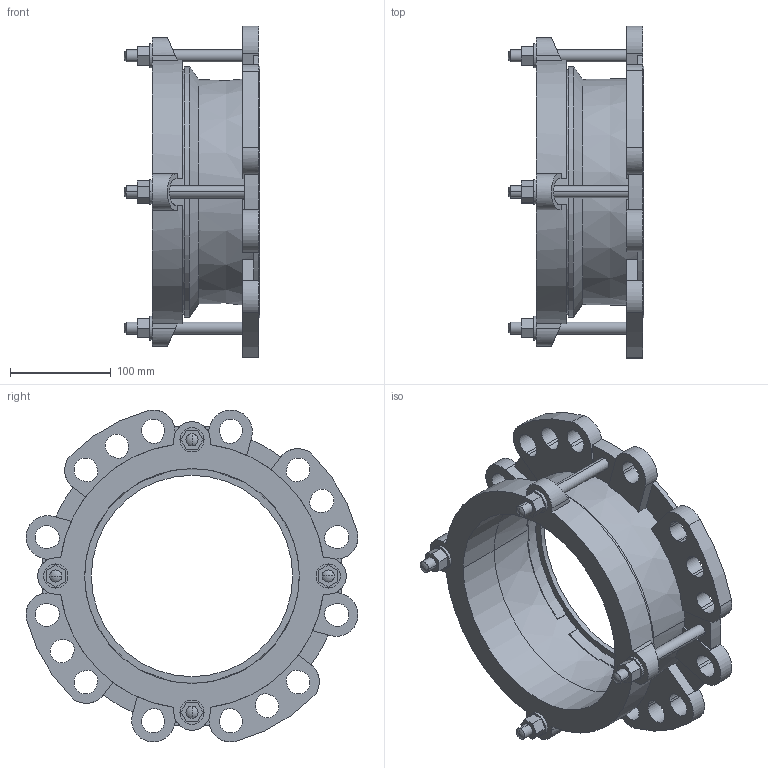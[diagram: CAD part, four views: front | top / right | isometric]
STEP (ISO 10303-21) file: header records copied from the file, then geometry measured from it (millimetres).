
FILE_DESCRIPTION((''),'2;1');
FILE_NAME('BIM_12419_7','2018-10-05T',('MReader'),(''),'CREO PARAMETRIC BY PTC INC, 2016130','CREO PARAMETRIC BY PTC INC, 2016130','');
FILE_SCHEMA(('CONFIG_CONTROL_DESIGN'));
Length unit declared in the file: millimetre
Products named in the file (1): BIM_12419_7
Bounding box: 135 x 329.81 x 329.81 mm (x, y, z)
Volume: 1561535.7 mm3; surface area: 332126.1 mm2
Topology: 1 solids, 1 shells, 285 faces, 794 edges, 518 vertices
Faces by surface type: plane 165, cylinder 106, sphere 8, cone 6
Entity records: 9353 total; most frequent: CARTESIAN_POINT 1730, DIRECTION 1614, ORIENTED_EDGE 1572, EDGE_CURVE 786, AXIS2_PLACEMENT_3D 567, VERTEX_POINT 518, VECTOR 480, LINE 480
